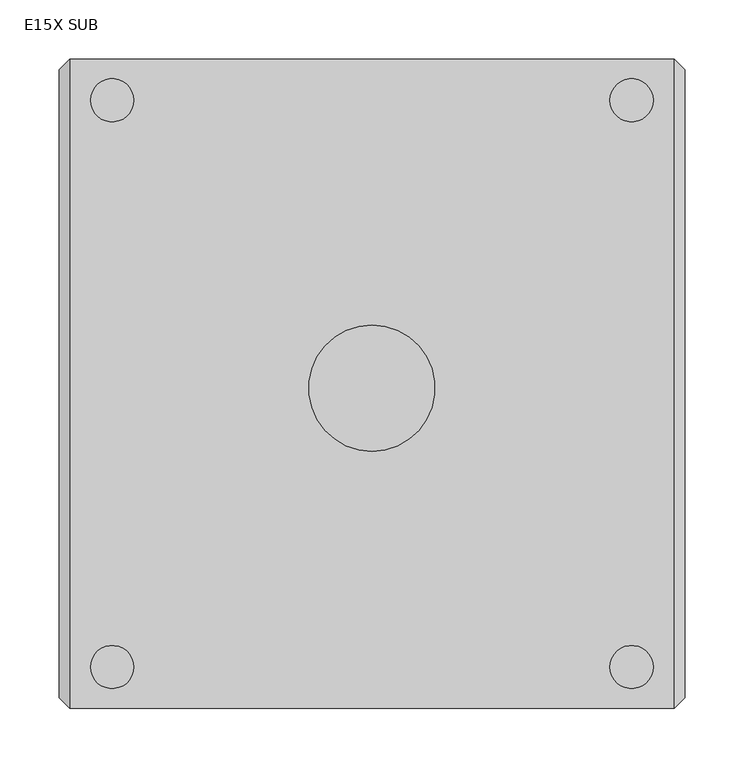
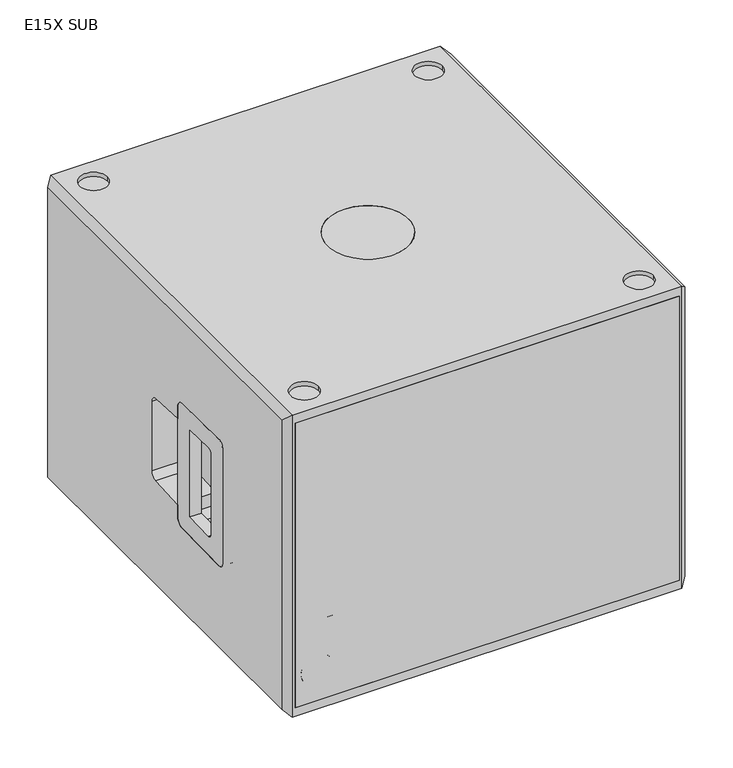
"""IFC4 building model written with IfcOpenShell, lengths in millimetres: proxy geometry, d&b E-Series E15X Subwoofer : E15X SUB."""

from ifc_helpers import new_model, si_unit, point, frame, frame_2d, origin, place, context, project, spatial, polyline, circle_curve, trimmed, segment, composite_curve, outline, extrude, source, transform, mapped, element, save
from ifc_brep_helpers import plane_surface, revolved_surface, advanced_brep


def e15x_sub_ec955287(model_context):
    return source(origin(), model_context, "Body", "SolidModel", [
        extrude(outline(polyline([(252.5, -275.0), (-252.5, -275.0), (-252.5, -260.0), (252.5, -260.0), (252.5, -275.0)])), frame((0.0, 0.0, -197.5), z_axis=(0.0, 0.0, 1.0), x_axis=(1.0, 0.0, 0.0)), (0.0, 0.0, 1.0), 394.9692499),
        extrude(outline(composite_curve([segment(trimmed(circle_curve(frame_2d((-220.0, 240.0)), 18.25), [point((-201.75, 240.0))], [point((-238.25, 240.0))], False, "CARTESIAN"), True, "CONTINUOUS"), segment(trimmed(circle_curve(frame_2d((-220.0, 240.0)), 18.25), [point((-238.25, 240.0))], [point((-201.75, 240.0))], False, "CARTESIAN"), True, "CONTINUOUS")], self_intersect=False)), frame((0.0, 0.0, -216.0), z_axis=(0.0, 0.0, 1.0), x_axis=(1.0, 0.0, 0.0)), (0.0, 0.0, 1.0), 6.0),
        extrude(outline(composite_curve([segment(trimmed(circle_curve(frame_2d((220.0, 240.0)), 18.25), [point((238.25, 240.0))], [point((201.75, 240.0))], False, "CARTESIAN"), True, "CONTINUOUS"), segment(trimmed(circle_curve(frame_2d((220.0, 240.0)), 18.25), [point((201.75, 240.0))], [point((238.25, 240.0))], False, "CARTESIAN"), True, "CONTINUOUS")], self_intersect=False)), frame((0.0, 0.0, -216.0), z_axis=(0.0, 0.0, 1.0), x_axis=(1.0, 0.0, 0.0)), (0.0, 0.0, 1.0), 6.0),
        extrude(outline(composite_curve([segment(trimmed(circle_curve(frame_2d((-220.0, -240.0)), 18.25), [point((-201.75, -240.0))], [point((-238.25, -240.0))], False, "CARTESIAN"), True, "CONTINUOUS"), segment(trimmed(circle_curve(frame_2d((-220.0, -240.0)), 18.25), [point((-238.25, -240.0))], [point((-201.75, -240.0))], False, "CARTESIAN"), True, "CONTINUOUS")], self_intersect=False)), frame((0.0, 0.0, -216.0), z_axis=(0.0, 0.0, 1.0), x_axis=(1.0, 0.0, 0.0)), (0.0, 0.0, 1.0), 6.0),
        extrude(outline(composite_curve([segment(trimmed(circle_curve(frame_2d((220.0, -240.0)), 18.25), [point((238.25, -240.0))], [point((201.75, -240.0))], False, "CARTESIAN"), True, "CONTINUOUS"), segment(trimmed(circle_curve(frame_2d((220.0, -240.0)), 18.25), [point((201.75, -240.0))], [point((238.25, -240.0))], False, "CARTESIAN"), True, "CONTINUOUS")], self_intersect=False)), frame((0.0, 0.0, -216.0), z_axis=(0.0, 0.0, 1.0), x_axis=(1.0, 0.0, 0.0)), (0.0, 0.0, 1.0), 6.0),
        extrude(outline(polyline([(-203.4285714, -275.0), (-244.9285714, -275.0), (-244.9285714, -270.0), (-203.4285714, -270.0), (-203.4285714, -275.0)])), frame((0.0, 0.0, -127.5), z_axis=(0.0, 0.0, 1.0), x_axis=(1.0, 0.0, 0.0)), (0.0, 0.0, 1.0), 41.5),
        extrude(outline(polyline([(-156.0, -275.0), (-197.5, -275.0), (-197.5, -270.0), (-156.0, -270.0), (-156.0, -275.0)])), frame((0.0, 0.0, -127.5), z_axis=(0.0, 0.0, 1.0), x_axis=(1.0, 0.0, 0.0)), (0.0, 0.0, 1.0), 41.5),
        extrude(outline(polyline([(-156.0, -275.0), (-197.5, -275.0), (-197.5, -270.0), (-156.0, -270.0), (-156.0, -275.0)])), frame((0.0, 0.0, -174.9285714), z_axis=(0.0, 0.0, 1.0), x_axis=(1.0, 0.0, 0.0)), (0.0, 0.0, 1.0), 41.5),
        extrude(outline(composite_curve([segment(trimmed(circle_curve(frame_2d((-154.1785714, -224.1785714)), 20.75), [point((-154.1785714, -244.9285714))], [point((-154.1785714, -203.4285714))], False, "CARTESIAN"), True, "CONTINUOUS"), segment(trimmed(circle_curve(frame_2d((-154.1785714, -224.1785714)), 20.75), [point((-154.1785714, -203.4285714))], [point((-154.1785714, -244.9285714))], False, "CARTESIAN"), True, "CONTINUOUS")], self_intersect=False)), frame((0.0, -275.0, 0.0), z_axis=(0.0, 1.0, 0.0), x_axis=(0.0, 0.0, 1.0)), (0.0, 0.0, 1.0), 5.0),
        advanced_brep(
        [(265.0, -266.0, 201.0), (265.0, -266.0, -201.0), (265.0, 266.0, -201.0), (265.0, 266.0, 201.0), (265.0, -123.126422, 87.9753483), (265.0, -38.6374756, 86.3580413), (265.0, -29.9996908, 77.3653331), (265.0, -29.9996908, 59.9650374), (265.0, 20.4659272, 57.0366231), (265.0, 28.8293183, 48.0594598), (265.0, 28.8293183, -48.058974), (265.0, 20.465242, -57.0368847), (265.0, -30.0088186, -59.9657466), (265.0, -30.0088186, -77.3689221), (265.0, -38.7111424, -86.3837349), (265.0, -123.1027014, -88.003144), (265.0, -132.108627, -78.980039), (265.0, -132.108627, 78.9753659), (256.0, -275.0, 210.0), (256.0, -275.0, -210.0), (256.0, 275.0, -210.0), (256.0, 275.0, 210.0), (-265.0, -266.0, 201.0), (-265.0, 266.0, 201.0), (-265.0, 266.0, -201.0), (-265.0, -266.0, -201.0), (-265.0, -38.6374756, 86.3580413), (-265.0, -123.126422, 87.9753483), (-265.0, -132.108627, 78.9753659), (-265.0, -132.108627, -78.980039), (-265.0, -123.1027014, -88.0031441), (-265.0, -38.7111424, -86.3837349), (-265.0, -30.0088186, -77.3689221), (-265.0, -30.0088186, -59.9657466), (-265.0, 20.465242, -57.0368849), (-265.0, 28.8293183, -48.058974), (-265.0, 28.8293183, 48.0594598), (-265.0, 20.4659272, 57.0366233), (-265.0, -29.9996908, 59.9650374), (-265.0, -29.9996908, 77.3653331), (-256.0, -275.0, -210.0), (-256.0, -275.0, 210.0), (-256.0, 275.0, -210.0), (-256.0, 275.0, 210.0), (0.0, 49.7080204, 210.0), (0.0, -57.2080204, 210.0), (-238.25, 240.0, 210.0), (-201.75, 240.0, 210.0), (201.75, 240.0, 210.0), (238.25, 240.0, 210.0), (-238.25, -240.0, 210.0), (-201.75, -240.0, 210.0), (201.75, -240.0, 210.0), (238.25, -240.0, 210.0), (155.0, 275.0, 47.0), (147.0, 275.0, 55.0), (95.0, 275.0, 55.0), (87.0, 275.0, 47.0), (87.0, 275.0, -45.0), (95.0, 275.0, -53.0), (147.0, 275.0, -53.0), (155.0, 275.0, -45.0), (-95.0, 275.0, 55.0), (-147.0, 275.0, 55.0), (-155.0, 275.0, 47.0), (-155.0, 275.0, -45.0), (-147.0, 275.0, -53.0), (-95.0, 275.0, -53.0), (-87.0, 275.0, -45.0), (-87.0, 275.0, 47.0), (-252.5, -275.0, 197.4692499), (252.5, -275.0, 197.4692499), (252.5, -275.0, -197.5), (-252.5, -275.0, -197.5), (215.0, -38.6374756, 86.3580413), (215.0, -123.126422, 87.9753483), (215.0, -132.108627, 78.9753659), (215.0, -132.108627, -78.980039), (215.0, -123.1027014, -88.0031441), (215.0, -38.7111424, -86.3837349), (215.0, -30.0088186, -77.3689221), (215.0, -30.0088186, -59.9657466), (215.0, 20.465242, -57.0368849), (215.0, 28.8293183, -48.058974), (215.0, 28.8293183, 48.0594598), (215.0, 20.4659272, 57.0366233), (215.0, -29.9996908, 59.9650374), (215.0, -29.9996908, 77.3653331), (252.5, -260.0, 197.4692499), (-252.5, -260.0, 197.4692499), (-252.5, -260.0, -197.5), (252.5, -260.0, -197.5), (0.0, -57.2080204, 205.0), (0.0, 49.7080204, 205.0), (-201.75, 240.0, 204.0), (-238.25, 240.0, 204.0), (238.25, 240.0, 204.0), (201.75, 240.0, 204.0), (-201.75, -240.0, 204.0), (-238.25, -240.0, 204.0), (238.25, -240.0, 204.0), (201.75, -240.0, 204.0), (147.0, 263.0, 55.0), (155.0, 263.0, 47.0), (155.0, 263.0, -45.0), (147.0, 263.0, -53.0), (95.0, 263.0, -53.0), (87.0, 263.0, -45.0), (87.0, 263.0, 47.0), (95.0, 263.0, 55.0), (-147.0, 263.0, 55.0), (-95.0, 263.0, 55.0), (-87.0, 263.0, 47.0), (-87.0, 263.0, -45.0), (-95.0, 263.0, -53.0), (-147.0, 263.0, -53.0), (-155.0, 263.0, -45.0), (-155.0, 263.0, 47.0), (-215.0, -38.6374756, 86.3580413), (-215.0, -29.9996908, 77.3653331), (-215.0, -29.9996908, 59.9650374), (-215.0, 20.4659272, 57.0366231), (-215.0, 28.8293183, 48.0594598), (-215.0, 28.8293183, -48.058974), (-215.0, 20.465242, -57.0368847), (-215.0, -30.0088186, -59.9657466), (-215.0, -30.0088186, -77.3689221), (-215.0, -38.7111424, -86.3837349), (-215.0, -123.1027014, -88.003144), (-215.0, -132.108627, -78.980039), (-215.0, -132.108627, 78.9753659), (-215.0, -123.126422, 87.9753483)],
        [
            (0, 1),
            (1, 2),
            (2, 3),
            (3, 0),
            (4, 5, circle_curve(frame((265.0, -119.17, -1913.0207404), z_axis=(-1.0, 0.0, 0.0), x_axis=(0.0, 1.0, 0.0)), 2001.0)),
            (5, 6, circle_curve(frame((265.0, -38.9996908, 77.3653331), z_axis=(-1.0, 0.0, 0.0), x_axis=(0.0, 1.0, 0.0)), 9.0)),
            (6, 7),
            (7, 8, circle_curve(frame((265.0, -119.1701594, -1913.0208287), z_axis=(-1.0, 0.0, 0.0), x_axis=(0.0, 1.0, 0.0)), 1974.9998987)),
            (8, 9, circle_curve(frame((265.0, 19.8296331, 48.0594598), z_axis=(-1.0, 0.0, 0.0), x_axis=(0.0, 1.0, 0.0)), 8.9996852)),
            (9, 10),
            (10, 11, circle_curve(frame((265.0, 19.8288831, -48.058974), z_axis=(-1.0, 0.0, 0.0), x_axis=(0.0, 1.0, 0.0)), 9.0004352)),
            (11, 12, circle_curve(frame((265.0, -119.1734208, 1913.0205662), z_axis=(-1.0, 0.0, 0.0), x_axis=(0.0, 1.0, 0.0)), 1975.0000802)),
            (12, 13),
            (13, 14, circle_curve(frame((265.0, -39.0292418, -77.3689221), z_axis=(-1.0, 0.0, 0.0), x_axis=(0.0, 1.0, 0.0)), 9.0204232)),
            (14, 15, circle_curve(frame((265.0, -119.2892511, 1913.0080485), z_axis=(-1.0, 0.0, 0.0), x_axis=(0.0, 1.0, 0.0)), 2001.0148263)),
            (15, 16, circle_curve(frame((265.0, -123.0855055, -78.980039), z_axis=(-1.0, 0.0, 0.0), x_axis=(0.0, 1.0, 0.0)), 9.0231215)),
            (16, 17),
            (17, 4, circle_curve(frame((265.0, -123.108627, 78.9753659), z_axis=(-1.0, 0.0, 0.0), x_axis=(0.0, 1.0, 0.0)), 9.0)),
            (0, 18),
            (18, 19),
            (19, 1),
            (19, 20),
            (20, 2),
            (20, 21),
            (21, 3),
            (21, 18),
            (22, 23),
            (23, 24),
            (24, 25),
            (25, 22),
            (26, 27, circle_curve(frame((-265.0, -119.17, -1913.0207404), z_axis=(1.0, 0.0, 0.0), x_axis=(0.0, 1.0, 0.0)), 2001.0)),
            (27, 28, circle_curve(frame((-265.0, -123.108627, 78.9753659), z_axis=(1.0, 0.0, 0.0), x_axis=(0.0, 1.0, 0.0)), 9.0)),
            (28, 29),
            (29, 30, circle_curve(frame((-265.0, -123.0855055, -78.980039), z_axis=(1.0, 0.0, 0.0), x_axis=(0.0, 1.0, 0.0)), 9.0231215)),
            (30, 31, circle_curve(frame((-265.0, -119.2892511, 1913.0080485), z_axis=(1.0, 0.0, 0.0), x_axis=(0.0, 1.0, 0.0)), 2001.0148263)),
            (31, 32, circle_curve(frame((-265.0, -39.0292418, -77.3689221), z_axis=(1.0, 0.0, 0.0), x_axis=(0.0, 1.0, 0.0)), 9.0204232)),
            (32, 33),
            (33, 34, circle_curve(frame((-265.0, -119.1734208, 1913.0205662), z_axis=(1.0, 0.0, 0.0), x_axis=(0.0, 1.0, 0.0)), 1975.0000802)),
            (34, 35, circle_curve(frame((-265.0, 19.8288831, -48.058974), z_axis=(1.0, 0.0, 0.0), x_axis=(0.0, 1.0, 0.0)), 9.0004352)),
            (35, 36),
            (36, 37, circle_curve(frame((-265.0, 19.8296331, 48.0594598), z_axis=(1.0, 0.0, 0.0), x_axis=(0.0, 1.0, 0.0)), 8.9996852)),
            (37, 38, circle_curve(frame((-265.0, -119.1701594, -1913.0208287), z_axis=(1.0, 0.0, 0.0), x_axis=(0.0, 1.0, 0.0)), 1974.9998987)),
            (38, 39),
            (39, 26, circle_curve(frame((-265.0, -38.9996908, 77.3653331), z_axis=(1.0, 0.0, 0.0), x_axis=(0.0, 1.0, 0.0)), 9.0)),
            (25, 40),
            (40, 41),
            (41, 22),
            (24, 42),
            (42, 40),
            (23, 43),
            (43, 42),
            (41, 43),
            (21, 43),
            (41, 18),
            (44, 45, circle_curve(frame((0.0, -3.75, 210.0), z_axis=(0.0, 0.0, -1.0), x_axis=(0.0, 1.0, 0.0)), 53.4580204)),
            (45, 44, circle_curve(frame((0.0, -3.75, 210.0), z_axis=(0.0, 0.0, -1.0), x_axis=(0.0, 1.0, 0.0)), 53.4580204)),
            (46, 47, circle_curve(frame((-220.0, 240.0, 210.0), z_axis=(0.0, 0.0, -1.0), x_axis=(-1.0, 0.0, 0.0)), 18.25)),
            (47, 46, circle_curve(frame((-220.0, 240.0, 210.0), z_axis=(0.0, 0.0, -1.0), x_axis=(-1.0, 0.0, 0.0)), 18.25)),
            (48, 49, circle_curve(frame((220.0, 240.0, 210.0), z_axis=(0.0, 0.0, -1.0), x_axis=(-1.0, 0.0, 0.0)), 18.25)),
            (49, 48, circle_curve(frame((220.0, 240.0, 210.0), z_axis=(0.0, 0.0, -1.0), x_axis=(-1.0, 0.0, 0.0)), 18.25)),
            (50, 51, circle_curve(frame((-220.0, -240.0, 210.0), z_axis=(0.0, 0.0, -1.0), x_axis=(-1.0, 0.0, 0.0)), 18.25)),
            (51, 50, circle_curve(frame((-220.0, -240.0, 210.0), z_axis=(0.0, 0.0, -1.0), x_axis=(-1.0, 0.0, 0.0)), 18.25)),
            (52, 53, circle_curve(frame((220.0, -240.0, 210.0), z_axis=(0.0, 0.0, -1.0), x_axis=(-1.0, 0.0, 0.0)), 18.25)),
            (53, 52, circle_curve(frame((220.0, -240.0, 210.0), z_axis=(0.0, 0.0, -1.0), x_axis=(-1.0, 0.0, 0.0)), 18.25)),
            (19, 40),
            (42, 20),
            (54, 55, circle_curve(frame((147.0, 275.0, 47.0), z_axis=(0.0, -1.0, 0.0), x_axis=(-1.0, 0.0, 0.0)), 8.0)),
            (55, 56),
            (56, 57, circle_curve(frame((95.0, 275.0, 47.0), z_axis=(0.0, -1.0, 0.0), x_axis=(-1.0, 0.0, 0.0)), 8.0)),
            (57, 58),
            (58, 59, circle_curve(frame((95.0, 275.0, -45.0), z_axis=(0.0, -1.0, 0.0), x_axis=(-1.0, 0.0, 0.0)), 8.0)),
            (59, 60),
            (60, 61, circle_curve(frame((147.0, 275.0, -45.0), z_axis=(0.0, -1.0, 0.0), x_axis=(-1.0, 0.0, 0.0)), 8.0)),
            (61, 54),
            (62, 63),
            (63, 64, circle_curve(frame((-147.0, 275.0, 47.0), z_axis=(0.0, -1.0, 0.0), x_axis=(-1.0, 0.0, 0.0)), 8.0)),
            (64, 65),
            (65, 66, circle_curve(frame((-147.0, 275.0, -45.0), z_axis=(0.0, -1.0, 0.0), x_axis=(-1.0, 0.0, 0.0)), 8.0)),
            (66, 67),
            (67, 68, circle_curve(frame((-95.0, 275.0, -45.0), z_axis=(0.0, -1.0, 0.0), x_axis=(-1.0, 0.0, 0.0)), 8.0)),
            (68, 69),
            (69, 62, circle_curve(frame((-95.0, 275.0, 47.0), z_axis=(0.0, -1.0, 0.0), x_axis=(-1.0, 0.0, 0.0)), 8.0)),
            (70, 71),
            (71, 72),
            (72, 73),
            (73, 70),
            (74, 75, circle_curve(frame((215.0, -119.17, -1913.0207404), z_axis=(1.0, 0.0, 0.0), x_axis=(0.0, 1.0, 0.0)), 2001.0)),
            (75, 76, circle_curve(frame((215.0, -123.108627, 78.9753659), z_axis=(1.0, 0.0, 0.0), x_axis=(0.0, 1.0, 0.0)), 9.0)),
            (76, 77),
            (77, 78, circle_curve(frame((215.0, -123.0855055, -78.980039), z_axis=(1.0, 0.0, 0.0), x_axis=(0.0, 1.0, 0.0)), 9.0231215)),
            (78, 79, circle_curve(frame((215.0, -119.2892511, 1913.0080485), z_axis=(1.0, 0.0, 0.0), x_axis=(0.0, 1.0, 0.0)), 2001.0148263)),
            (79, 80, circle_curve(frame((215.0, -39.0292418, -77.3689221), z_axis=(1.0, 0.0, 0.0), x_axis=(0.0, 1.0, 0.0)), 9.0204232)),
            (80, 81),
            (81, 82, circle_curve(frame((215.0, -119.1734208, 1913.0205662), z_axis=(1.0, 0.0, 0.0), x_axis=(0.0, 1.0, 0.0)), 1975.0000802)),
            (82, 83, circle_curve(frame((215.0, 19.8288831, -48.058974), z_axis=(1.0, 0.0, 0.0), x_axis=(0.0, 1.0, 0.0)), 9.0004352)),
            (83, 84),
            (84, 85, circle_curve(frame((215.0, 19.8296331, 48.0594598), z_axis=(1.0, 0.0, 0.0), x_axis=(0.0, 1.0, 0.0)), 8.9996852)),
            (85, 86, circle_curve(frame((215.0, -119.1701594, -1913.0208287), z_axis=(1.0, 0.0, 0.0), x_axis=(0.0, 1.0, 0.0)), 1974.9998987)),
            (86, 87),
            (87, 74, circle_curve(frame((215.0, -38.9996908, 77.3653331), z_axis=(1.0, 0.0, 0.0), x_axis=(0.0, 1.0, 0.0)), 9.0)),
            (74, 5),
            (4, 75),
            (17, 76),
            (16, 77),
            (15, 78),
            (14, 79),
            (13, 80),
            (12, 81),
            (11, 82),
            (10, 83),
            (9, 84),
            (8, 85),
            (7, 86),
            (6, 87),
            (88, 89),
            (89, 90),
            (90, 91),
            (91, 88),
            (88, 71),
            (70, 89),
            (73, 90),
            (72, 91),
            (92, 93, circle_curve(frame((0.0, -3.75, 205.0), z_axis=(0.0, 0.0, 1.0), x_axis=(0.0, 1.0, 0.0)), 53.4580204)),
            (93, 92, circle_curve(frame((0.0, -3.75, 205.0), z_axis=(0.0, 0.0, 1.0), x_axis=(0.0, 1.0, 0.0)), 53.4580204)),
            (92, 45),
            (44, 93),
            (94, 95, circle_curve(frame((-220.0, 240.0, 204.0), z_axis=(0.0, 0.0, 1.0), x_axis=(-1.0, 0.0, 0.0)), 18.25)),
            (95, 94, circle_curve(frame((-220.0, 240.0, 204.0), z_axis=(0.0, 0.0, 1.0), x_axis=(-1.0, 0.0, 0.0)), 18.25)),
            (96, 97, circle_curve(frame((220.0, 240.0, 204.0), z_axis=(0.0, 0.0, 1.0), x_axis=(-1.0, 0.0, 0.0)), 18.25)),
            (97, 96, circle_curve(frame((220.0, 240.0, 204.0), z_axis=(0.0, 0.0, 1.0), x_axis=(-1.0, 0.0, 0.0)), 18.25)),
            (98, 99, circle_curve(frame((-220.0, -240.0, 204.0), z_axis=(0.0, 0.0, 1.0), x_axis=(-1.0, 0.0, 0.0)), 18.25)),
            (99, 98, circle_curve(frame((-220.0, -240.0, 204.0), z_axis=(0.0, 0.0, 1.0), x_axis=(-1.0, 0.0, 0.0)), 18.25)),
            (100, 101, circle_curve(frame((220.0, -240.0, 204.0), z_axis=(0.0, 0.0, 1.0), x_axis=(-1.0, 0.0, 0.0)), 18.25)),
            (101, 100, circle_curve(frame((220.0, -240.0, 204.0), z_axis=(0.0, 0.0, 1.0), x_axis=(-1.0, 0.0, 0.0)), 18.25)),
            (94, 47),
            (46, 95),
            (96, 49),
            (48, 97),
            (98, 51),
            (50, 99),
            (100, 53),
            (52, 101),
            (102, 103, circle_curve(frame((147.0, 263.0, 47.0), z_axis=(0.0, 1.0, 0.0), x_axis=(-1.0, 0.0, 0.0)), 8.0)),
            (103, 104),
            (104, 105, circle_curve(frame((147.0, 263.0, -45.0), z_axis=(0.0, 1.0, 0.0), x_axis=(-1.0, 0.0, 0.0)), 8.0)),
            (105, 106),
            (106, 107, circle_curve(frame((95.0, 263.0, -45.0), z_axis=(0.0, 1.0, 0.0), x_axis=(-1.0, 0.0, 0.0)), 8.0)),
            (107, 108),
            (108, 109, circle_curve(frame((95.0, 263.0, 47.0), z_axis=(0.0, 1.0, 0.0), x_axis=(-1.0, 0.0, 0.0)), 8.0)),
            (109, 102),
            (110, 111),
            (111, 112, circle_curve(frame((-95.0, 263.0, 47.0), z_axis=(0.0, 1.0, 0.0), x_axis=(-1.0, 0.0, 0.0)), 8.0)),
            (112, 113),
            (113, 114, circle_curve(frame((-95.0, 263.0, -45.0), z_axis=(0.0, 1.0, 0.0), x_axis=(-1.0, 0.0, 0.0)), 8.0)),
            (114, 115),
            (115, 116, circle_curve(frame((-147.0, 263.0, -45.0), z_axis=(0.0, 1.0, 0.0), x_axis=(-1.0, 0.0, 0.0)), 8.0)),
            (116, 117),
            (117, 110, circle_curve(frame((-147.0, 263.0, 47.0), z_axis=(0.0, 1.0, 0.0), x_axis=(-1.0, 0.0, 0.0)), 8.0)),
            (102, 55),
            (54, 103),
            (61, 104),
            (60, 105),
            (59, 106),
            (58, 107),
            (57, 108),
            (56, 109),
            (110, 63),
            (62, 111),
            (69, 112),
            (68, 113),
            (67, 114),
            (66, 115),
            (65, 116),
            (64, 117),
            (118, 119, circle_curve(frame((-215.0, -38.9996908, 77.3653331), z_axis=(-1.0, 0.0, 0.0), x_axis=(0.0, 1.0, 0.0)), 9.0)),
            (119, 120),
            (120, 121, circle_curve(frame((-215.0, -119.1701594, -1913.0208287), z_axis=(-1.0, 0.0, 0.0), x_axis=(0.0, 1.0, 0.0)), 1974.9998987)),
            (121, 122, circle_curve(frame((-215.0, 19.8296331, 48.0594598), z_axis=(-1.0, 0.0, 0.0), x_axis=(0.0, 1.0, 0.0)), 8.9996852)),
            (122, 123),
            (123, 124, circle_curve(frame((-215.0, 19.8288831, -48.058974), z_axis=(-1.0, 0.0, 0.0), x_axis=(0.0, 1.0, 0.0)), 9.0004352)),
            (124, 125, circle_curve(frame((-215.0, -119.1734208, 1913.0205662), z_axis=(-1.0, 0.0, 0.0), x_axis=(0.0, 1.0, 0.0)), 1975.0000802)),
            (125, 126),
            (126, 127, circle_curve(frame((-215.0, -39.0292418, -77.3689221), z_axis=(-1.0, 0.0, 0.0), x_axis=(0.0, 1.0, 0.0)), 9.0204232)),
            (127, 128, circle_curve(frame((-215.0, -119.2892511, 1913.0080485), z_axis=(-1.0, 0.0, 0.0), x_axis=(0.0, 1.0, 0.0)), 2001.0148263)),
            (128, 129, circle_curve(frame((-215.0, -123.0855055, -78.980039), z_axis=(-1.0, 0.0, 0.0), x_axis=(0.0, 1.0, 0.0)), 9.0231215)),
            (129, 130),
            (130, 131, circle_curve(frame((-215.0, -123.108627, 78.9753659), z_axis=(-1.0, 0.0, 0.0), x_axis=(0.0, 1.0, 0.0)), 9.0)),
            (131, 118, circle_curve(frame((-215.0, -119.17, -1913.0207404), z_axis=(-1.0, 0.0, 0.0), x_axis=(0.0, 1.0, 0.0)), 2001.0)),
            (131, 27),
            (26, 118),
            (130, 28),
            (129, 29),
            (128, 30),
            (127, 31),
            (126, 32),
            (125, 33),
            (124, 34),
            (123, 35),
            (122, 36),
            (121, 37),
            (120, 38),
            (119, 39),
        ],
        [
            plane_surface(frame((265.0, 0.0, 0.0), z_axis=(1.0, 0.0, 0.0), x_axis=(0.0, -1.0, 0.0))),
            plane_surface(frame((265.0, -266.0, 0.0), z_axis=(0.7071067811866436, -0.7071067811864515, 0.0), x_axis=(0.0, 0.0, 1.0))),
            plane_surface(frame((265.0, 0.0, -201.0), z_axis=(0.707106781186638, 0.0, -0.7071067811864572), x_axis=(0.0, -1.0, 0.0))),
            plane_surface(frame((265.0, 266.0, 0.0), z_axis=(0.7071067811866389, 0.7071067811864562, 0.0), x_axis=(0.0, 0.0, -1.0))),
            plane_surface(frame((265.0, 0.0, 201.0), z_axis=(0.7071067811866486, 0.0, 0.7071067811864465), x_axis=(0.0, 1.0, 0.0))),
            plane_surface(frame((-265.0, 0.0, 0.0), z_axis=(-1.0, 0.0, 0.0), x_axis=(0.0, 0.0, 1.0))),
            plane_surface(frame((-265.0, -266.0, 0.0), z_axis=(-0.707106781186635, -0.7071067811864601, 0.0), x_axis=(0.0, 0.0, -1.0))),
            plane_surface(frame((-265.0, 0.0, -201.0), z_axis=(-0.707106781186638, 0.0, -0.7071067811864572), x_axis=(0.0, 1.0, 0.0))),
            plane_surface(frame((-265.0, 266.0, 0.0), z_axis=(-0.7071067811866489, 0.7071067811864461, 0.0), x_axis=(0.0, 0.0, 1.0))),
            plane_surface(frame((-265.0, 0.0, 201.0), z_axis=(-0.7071067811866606, 0.0, 0.7071067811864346), x_axis=(0.0, -1.0, 0.0))),
            plane_surface(frame((-256.0, 275.0, 210.0), z_axis=(0.0, 0.0, 1.0), x_axis=(-1.0, 0.0, 0.0))),
            plane_surface(frame((-256.0, 275.0, -210.0), z_axis=(0.0, 0.0, -1.0), x_axis=(1.0, 0.0, 0.0))),
            plane_surface(frame((256.0, 275.0, 210.0), z_axis=(0.0, 1.0, 0.0), x_axis=(0.0, 0.0, -1.0))),
            plane_surface(frame((-256.0, -275.0, 210.0), z_axis=(0.0, -1.0, 0.0), x_axis=(0.0, 0.0, -1.0))),
            plane_surface(frame((215.0, -29.9996908, 77.3653331), z_axis=(1.0, 0.0, 0.0), x_axis=(0.0, 0.0, -1.0))),
            revolved_surface(polyline([(215.0, 1881.83, -1913.0207404), (265.0, 1881.83, -1913.0207404)]), (265.0, -119.17, -1913.0207404), (-1.0, 0.0, 0.0)),
            revolved_surface(polyline([(215.0, -114.108627, 78.9753659), (265.0, -114.108627, 78.9753659)]), (265.0, -123.108627, 78.9753659), (-1.0, 0.0, 0.0)),
            plane_surface(frame((215.0, -132.108627, -78.980039), z_axis=(0.0, 1.0, 0.0), x_axis=(1.0, 0.0, 0.0))),
            revolved_surface(polyline([(215.0, -114.062384, -78.980039), (265.0, -114.062384, -78.980039)]), (265.0, -123.0855055, -78.980039), (-1.0, 0.0, 0.0)),
            revolved_surface(polyline([(215.0, 1881.7255752, 1913.0080485), (265.0, 1881.7255752, 1913.0080485)]), (265.0, -119.2892511, 1913.0080485), (-1.0, 0.0, 0.0)),
            revolved_surface(polyline([(215.0, -30.0088186, -77.3689221), (265.0, -30.0088186, -77.3689221)]), (265.0, -39.0292418, -77.3689221), (-1.0, 0.0, 0.0)),
            plane_surface(frame((215.0, -30.0088186, -59.9657466), z_axis=(0.0, -1.0, 0.0), x_axis=(1.0, 0.0, 0.0))),
            revolved_surface(polyline([(215.0, 1855.8266594, 1913.0205662), (265.0, 1855.8266594, 1913.0205662)]), (265.0, -119.1734208, 1913.0205662), (-1.0, 0.0, 0.0)),
            revolved_surface(polyline([(215.0, 28.829318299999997, -48.058974), (265.0, 28.829318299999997, -48.058974)]), (265.0, 19.8288831, -48.058974), (-1.0, 0.0, 0.0)),
            plane_surface(frame((215.0, 28.8293183, 48.0594598), z_axis=(0.0, -1.0, 0.0), x_axis=(1.0, 0.0, 0.0))),
            revolved_surface(polyline([(215.0, 28.829318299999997, 48.0594598), (265.0, 28.829318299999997, 48.0594598)]), (265.0, 19.8296331, 48.0594598), (-1.0, 0.0, 0.0)),
            revolved_surface(polyline([(215.0, 1855.8297392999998, -1913.0208287), (265.0, 1855.8297392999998, -1913.0208287)]), (265.0, -119.1701594, -1913.0208287), (-1.0, 0.0, 0.0)),
            plane_surface(frame((215.0, -29.9996908, 77.3653331), z_axis=(0.0, -1.0, 0.0), x_axis=(1.0, 0.0, 0.0))),
            revolved_surface(polyline([(215.0, -29.999690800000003, 77.3653331), (265.0, -29.999690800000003, 77.3653331)]), (265.0, -38.9996908, 77.3653331), (-1.0, 0.0, 0.0)),
            plane_surface(frame((-252.5, -260.0, 197.4692499), z_axis=(0.0, -1.0, 0.0), x_axis=(1.0, 0.0, 0.0))),
            plane_surface(frame((252.5, -275.0, 197.4692499), z_axis=(0.0, 0.0, -1.0), x_axis=(0.0, 1.0, 0.0))),
            plane_surface(frame((-252.5, -275.0, 197.4692499), z_axis=(1.0, 0.0, 0.0), x_axis=(0.0, 1.0, 0.0))),
            plane_surface(frame((-252.5, -275.0, -197.5), z_axis=(0.0, 0.0, 1.0), x_axis=(0.0, 1.0, 0.0))),
            plane_surface(frame((252.5, -275.0, -197.5), z_axis=(-1.0, 0.0, 0.0), x_axis=(0.0, 1.0, 0.0))),
            plane_surface(frame((0.0, 49.7080204, 205.0), z_axis=(0.0, 0.0, 1.0), x_axis=(1.0, 0.0, 0.0))),
            revolved_surface(polyline([(0.0, 49.7080204, 210.0), (0.0, 49.7080204, 205.0)]), (0.0, -3.75, 205.0), (0.0, 0.0, 1.0)),
            plane_surface(frame((-238.25, 240.0, 204.0), z_axis=(0.0, 0.0, 1.0), x_axis=(0.0, 1.0, 0.0))),
            revolved_surface(polyline([(-238.25, 240.0, 210.0), (-238.25, 240.0, 204.0)]), (-220.0, 240.0, 204.0), (0.0, 0.0, 1.0)),
            revolved_surface(polyline([(201.75, 240.0, 210.0), (201.75, 240.0, 204.0)]), (220.0, 240.0, 705.0), (0.0, 0.0, 1.0)),
            revolved_surface(polyline([(-238.25, -240.0, 210.0), (-238.25, -240.0, 204.0)]), (-220.0, -240.0, 705.0), (0.0, 0.0, 1.0)),
            revolved_surface(polyline([(201.75, -240.0, 210.0), (201.75, -240.0, 204.0)]), (220.0, -240.0, 705.0), (0.0, 0.0, 1.0)),
            plane_surface(frame((139.0, 263.0, 47.0), z_axis=(0.0, 1.0, 0.0), x_axis=(0.0, 0.0, -1.0))),
            revolved_surface(polyline([(139.0, 275.0, 47.0), (139.0, 263.0, 47.0)]), (147.0, 263.0, 47.0), (0.0, 1.0, 0.0)),
            plane_surface(frame((155.0, 275.0, 47.0), z_axis=(-1.0, 0.0, 0.0), x_axis=(0.0, -1.0, 0.0))),
            revolved_surface(polyline([(139.0, 275.0, -45.0), (139.0, 263.0, -45.0)]), (147.0, 263.0, -45.0), (0.0, 1.0, 0.0)),
            plane_surface(frame((147.0, 275.0, -53.0), z_axis=(0.0, 0.0, 1.0), x_axis=(0.0, -1.0, 0.0))),
            revolved_surface(polyline([(87.0, 275.0, -45.0), (87.0, 263.0, -45.0)]), (95.0, 263.0, -45.0), (0.0, 1.0, 0.0)),
            plane_surface(frame((87.0, 275.0, -45.0), z_axis=(1.0, 0.0, 0.0), x_axis=(0.0, -1.0, 0.0))),
            revolved_surface(polyline([(87.0, 275.0, 47.0), (87.0, 263.0, 47.0)]), (95.0, 263.0, 47.0), (0.0, 1.0, 0.0)),
            plane_surface(frame((95.0, 275.0, 55.0), z_axis=(0.0, 0.0, -1.0), x_axis=(0.0, -1.0, 0.0))),
            plane_surface(frame((-147.0, 275.0, 55.0), z_axis=(0.0, 0.0, -1.0), x_axis=(0.0, -1.0, 0.0))),
            revolved_surface(polyline([(-103.0, 275.0, 47.0), (-103.0, 263.0, 47.0)]), (-95.0, 275.0, 47.0), (0.0, 1.0, 0.0)),
            plane_surface(frame((-87.0, 275.0, 47.0), z_axis=(-1.0, 0.0, 0.0), x_axis=(0.0, -1.0, 0.0))),
            revolved_surface(polyline([(-103.0, 275.0, -45.0), (-103.0, 263.0, -45.0)]), (-95.0, 275.0, -45.0), (0.0, 1.0, 0.0)),
            plane_surface(frame((-95.0, 275.0, -53.0), z_axis=(0.0, 0.0, 1.0), x_axis=(0.0, -1.0, 0.0))),
            revolved_surface(polyline([(-155.0, 275.0, -45.0), (-155.0, 263.0, -45.0)]), (-147.0, 275.0, -45.0), (0.0, 1.0, 0.0)),
            plane_surface(frame((-155.0, 275.0, -45.0), z_axis=(1.0, 0.0, 0.0), x_axis=(0.0, -1.0, 0.0))),
            revolved_surface(polyline([(-155.0, 275.0, 47.0), (-155.0, 263.0, 47.0)]), (-147.0, 275.0, 47.0), (0.0, 1.0, 0.0)),
            plane_surface(frame((-215.0, 1881.83, -1913.0207404), z_axis=(-1.0, 0.0, 0.0), x_axis=(0.0, 0.0, 1.0))),
            revolved_surface(polyline([(-215.0, 1881.83, -1913.0207404), (-265.0, 1881.83, -1913.0207404)]), (-265.0, -119.17, -1913.0207404), (1.0, 0.0, 0.0)),
            revolved_surface(polyline([(-215.0, -114.108627, 78.9753659), (-265.0, -114.108627, 78.9753659)]), (-265.0, -123.108627, 78.9753659), (1.0, 0.0, 0.0)),
            plane_surface(frame((-215.0, -132.108627, 78.9753659), z_axis=(0.0, 1.0, 0.0), x_axis=(-1.0, 0.0, 0.0))),
            revolved_surface(polyline([(-215.0, -114.062384, -78.980039), (-265.0, -114.062384, -78.980039)]), (-265.0, -123.0855055, -78.980039), (1.0, 0.0, 0.0)),
            revolved_surface(polyline([(-215.0, 1881.7255752, 1913.0080485), (-265.0, 1881.7255752, 1913.0080485)]), (-265.0, -119.2892511, 1913.0080485), (1.0, 0.0, 0.0)),
            revolved_surface(polyline([(-215.0, -30.0088186, -77.3689221), (-265.0, -30.0088186, -77.3689221)]), (-265.0, -39.0292418, -77.3689221), (1.0, 0.0, 0.0)),
            plane_surface(frame((-215.0, -30.0088186, -77.3689221), z_axis=(0.0, -1.0, 0.0), x_axis=(-1.0, 0.0, 0.0))),
            revolved_surface(polyline([(-215.0, 1855.8266594, 1913.0205662), (-265.0, 1855.8266594, 1913.0205662)]), (-265.0, -119.1734208, 1913.0205662), (1.0, 0.0, 0.0)),
            revolved_surface(polyline([(-215.0, 28.829318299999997, -48.058974), (-265.0, 28.829318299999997, -48.058974)]), (-265.0, 19.8288831, -48.058974), (1.0, 0.0, 0.0)),
            plane_surface(frame((-215.0, 28.8293183, -48.058974), z_axis=(0.0, -1.0, 0.0), x_axis=(-1.0, 0.0, 0.0))),
            revolved_surface(polyline([(-215.0, 28.829318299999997, 48.0594598), (-265.0, 28.829318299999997, 48.0594598)]), (-265.0, 19.8296331, 48.0594598), (1.0, 0.0, 0.0)),
            revolved_surface(polyline([(-215.0, 1855.8297392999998, -1913.0208287), (-265.0, 1855.8297392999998, -1913.0208287)]), (-265.0, -119.1701594, -1913.0208287), (1.0, 0.0, 0.0)),
            plane_surface(frame((-215.0, -29.9996908, 59.9650374), z_axis=(0.0, -1.0, 0.0), x_axis=(-1.0, 0.0, 0.0))),
            revolved_surface(polyline([(-215.0, -29.999690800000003, 77.3653331), (-265.0, -29.999690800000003, 77.3653331)]), (-265.0, -38.9996908, 77.3653331), (1.0, 0.0, 0.0)),
        ],
        [
            (0, [[1, 2, 3, 4], [5, 6, 7, 8, 9, 10, 11, 12, 13, 14, 15, 16, 17, 18]]),
            (1, [[-1, 19, 20, 21]]),
            (2, [[-2, -21, 22, 23]]),
            (3, [[-3, -23, 24, 25]]),
            (4, [[-4, -25, 26, -19]]),
            (5, [[27, 28, 29, 30], [31, 32, 33, 34, 35, 36, 37, 38, 39, 40, 41, 42, 43, 44]]),
            (6, [[-30, 45, 46, 47]]),
            (7, [[-29, 48, 49, -45]]),
            (8, [[-28, 50, 51, -48]]),
            (9, [[-27, -47, 52, -50]]),
            (10, [[53, -52, 54, -26], [55, 56], [57, 58], [59, 60], [61, 62], [63, 64]]),
            (11, [[65, -49, 66, -22]]),
            (12, [[-53, -24, -66, -51], [67, 68, 69, 70, 71, 72, 73, 74], [75, 76, 77, 78, 79, 80, 81, 82]]),
            (13, [[-54, -46, -65, -20], [83, 84, 85, 86]]),
            (14, [[87, 88, 89, 90, 91, 92, 93, 94, 95, 96, 97, 98, 99, 100]]),
            (15, [[-87, 101, -5, 102]]),
            (16, [[-88, -102, -18, 103]]),
            (17, [[-89, -103, -17, 104]]),
            (18, [[-90, -104, -16, 105]]),
            (19, [[-91, -105, -15, 106]]),
            (20, [[-92, -106, -14, 107]]),
            (21, [[-93, -107, -13, 108]]),
            (22, [[-94, -108, -12, 109]]),
            (23, [[-95, -109, -11, 110]]),
            (24, [[-96, -110, -10, 111]]),
            (25, [[-97, -111, -9, 112]]),
            (26, [[-98, -112, -8, 113]]),
            (27, [[-99, -113, -7, 114]]),
            (28, [[-100, -114, -6, -101]]),
            (29, [[115, 116, 117, 118]]),
            (30, [[-115, 119, -83, 120]]),
            (31, [[-116, -120, -86, 121]]),
            (32, [[-117, -121, -85, 122]]),
            (33, [[-118, -122, -84, -119]]),
            (34, [[123, 124]]),
            (35, [[-123, 125, -55, 126]]),
            (35, [[-124, -126, -56, -125]]),
            (36, [[127, 128]]),
            (36, [[129, 130]]),
            (36, [[131, 132]]),
            (36, [[133, 134]]),
            (37, [[-127, 135, -57, 136]]),
            (37, [[-128, -136, -58, -135]]),
            (38, [[-129, 137, -59, 138]]),
            (38, [[-130, -138, -60, -137]]),
            (39, [[-131, 139, -61, 140]]),
            (39, [[-132, -140, -62, -139]]),
            (40, [[-133, 141, -63, 142]]),
            (40, [[-134, -142, -64, -141]]),
            (41, [[143, 144, 145, 146, 147, 148, 149, 150]]),
            (41, [[151, 152, 153, 154, 155, 156, 157, 158]]),
            (42, [[-143, 159, -67, 160]]),
            (43, [[-144, -160, -74, 161]]),
            (44, [[-145, -161, -73, 162]]),
            (45, [[-146, -162, -72, 163]]),
            (46, [[-147, -163, -71, 164]]),
            (47, [[-148, -164, -70, 165]]),
            (48, [[-149, -165, -69, 166]]),
            (49, [[-150, -166, -68, -159]]),
            (50, [[-151, 167, -75, 168]]),
            (51, [[-152, -168, -82, 169]]),
            (52, [[-153, -169, -81, 170]]),
            (53, [[-154, -170, -80, 171]]),
            (54, [[-155, -171, -79, 172]]),
            (55, [[-156, -172, -78, 173]]),
            (56, [[-157, -173, -77, 174]]),
            (57, [[-158, -174, -76, -167]]),
            (58, [[175, 176, 177, 178, 179, 180, 181, 182, 183, 184, 185, 186, 187, 188]]),
            (59, [[-188, 189, -31, 190]]),
            (60, [[-187, 191, -32, -189]]),
            (61, [[-186, 192, -33, -191]]),
            (62, [[-185, 193, -34, -192]]),
            (63, [[-184, 194, -35, -193]]),
            (64, [[-183, 195, -36, -194]]),
            (65, [[-182, 196, -37, -195]]),
            (66, [[-181, 197, -38, -196]]),
            (67, [[-180, 198, -39, -197]]),
            (68, [[-179, 199, -40, -198]]),
            (69, [[-178, 200, -41, -199]]),
            (70, [[-177, 201, -42, -200]]),
            (71, [[-176, 202, -43, -201]]),
            (72, [[-175, -190, -44, -202]]),
        ],
    ),
        extrude(outline(composite_curve([segment(trimmed(circle_curve(frame_2d((-38.9996908, 77.3653331)), 9.0), [point((-38.6374756, 86.3580413))], [point((-30.0088186, 77.7705685))], False, "CARTESIAN"), True, "CONTINUOUS"), segment(polyline([(-30.0088186, 77.7705685), (-30.0088186, -77.3689221)]), True, "CONTINUOUS"), segment(trimmed(circle_curve(frame_2d((-39.0292418, -77.3689221)), 9.0204232), [point((-30.0088186, -77.3689221))], [point((-38.7111424, -86.3837349))], False, "CARTESIAN"), True, "CONTINUOUS"), segment(trimmed(circle_curve(frame_2d((-119.2892511, 1913.0080485)), 2001.0148263), [point((-38.7111424, -86.3837349))], [point((-123.1027014, -88.003144))], False, "CARTESIAN"), True, "CONTINUOUS"), segment(trimmed(circle_curve(frame_2d((-123.0855055, -78.980039)), 9.0231215), [point((-123.1027014, -88.003144))], [point((-132.108627, -78.980039))], False, "CARTESIAN"), True, "CONTINUOUS"), segment(polyline([(-132.108627, -78.980039), (-132.108627, 78.9753659)]), True, "CONTINUOUS"), segment(trimmed(circle_curve(frame_2d((-123.108627, 78.9753659)), 9.0), [point((-132.108627, 78.9753659))], [point((-123.126422, 87.9753483))], False, "CARTESIAN"), True, "CONTINUOUS"), segment(trimmed(circle_curve(frame_2d((-119.17, -1913.0207404)), 2001.0), [point((-123.126422, 87.9753483))], [point((-38.6374756, 86.3580413))], False, "CARTESIAN"), True, "CONTINUOUS")], self_intersect=False), holes=[composite_curve([segment(trimmed(circle_curve(frame_2d((-99.5927643, 56.3047169)), 5.0), [point((-99.5430613, 61.3044698))], [point((-104.5927643, 56.3047169))], True, "CARTESIAN"), True, "CONTINUOUS"), segment(polyline([(-104.5927643, 56.3047169), (-104.5927643, -56.3047169)]), True, "CONTINUOUS"), segment(trimmed(circle_curve(frame_2d((-99.5927643, -56.3047169)), 5.0), [point((-104.5927643, -56.3047169))], [point((-99.5430613, -61.3044698))], True, "CARTESIAN"), True, "CONTINUOUS"), segment(trimmed(circle_curve(frame_2d((-119.17, 1913.0207404)), 1974.4227643), [point((-99.5430613, -61.3044698))], [point((-56.9996044, -60.4229741))], True, "CARTESIAN"), True, "CONTINUOUS"), segment(polyline([(-56.9996044, -60.4229741), (-56.9996044, 60.4229741)]), True, "CONTINUOUS"), segment(trimmed(circle_curve(frame_2d((-119.17, -1913.0207404)), 1974.4227643), [point((-56.9996044, 60.4229741))], [point((-99.5430613, 61.3044698))], True, "CARTESIAN"), True, "CONTINUOUS")], self_intersect=False)]), frame((250.0, 0.0, 0.0), z_axis=(1.0, 0.0, 0.0), x_axis=(0.0, 1.0, 0.0)), (0.0, 0.0, 1.0), 15.0),
        extrude(outline(composite_curve([segment(trimmed(circle_curve(frame_2d((-38.9996908, 77.3653331)), 9.0), [point((-38.6374756, 86.3580413))], [point((-30.0088186, 77.7705685))], False, "CARTESIAN"), True, "CONTINUOUS"), segment(polyline([(-30.0088186, 77.7705685), (-30.0088186, -77.3689221)]), True, "CONTINUOUS"), segment(trimmed(circle_curve(frame_2d((-39.0292418, -77.3689221)), 9.0204232), [point((-30.0088186, -77.3689221))], [point((-38.7111424, -86.3837349))], False, "CARTESIAN"), True, "CONTINUOUS"), segment(trimmed(circle_curve(frame_2d((-119.2892511, 1913.0080485)), 2001.0148263), [point((-38.7111424, -86.3837349))], [point((-123.1027014, -88.003144))], False, "CARTESIAN"), True, "CONTINUOUS"), segment(trimmed(circle_curve(frame_2d((-123.0855055, -78.980039)), 9.0231215), [point((-123.1027014, -88.003144))], [point((-132.108627, -78.980039))], False, "CARTESIAN"), True, "CONTINUOUS"), segment(polyline([(-132.108627, -78.980039), (-132.108627, 78.9753659)]), True, "CONTINUOUS"), segment(trimmed(circle_curve(frame_2d((-123.108627, 78.9753659)), 9.0), [point((-132.108627, 78.9753659))], [point((-123.126422, 87.9753483))], False, "CARTESIAN"), True, "CONTINUOUS"), segment(trimmed(circle_curve(frame_2d((-119.17, -1913.0207404)), 2001.0), [point((-123.126422, 87.9753483))], [point((-38.6374756, 86.3580413))], False, "CARTESIAN"), True, "CONTINUOUS")], self_intersect=False), holes=[composite_curve([segment(trimmed(circle_curve(frame_2d((-99.5927643, 56.3047169)), 5.0), [point((-99.5430613, 61.3044698))], [point((-104.5927643, 56.3047169))], True, "CARTESIAN"), True, "CONTINUOUS"), segment(polyline([(-104.5927643, 56.3047169), (-104.5927643, -56.3047169)]), True, "CONTINUOUS"), segment(trimmed(circle_curve(frame_2d((-99.5927643, -56.3047169)), 5.0), [point((-104.5927643, -56.3047169))], [point((-99.5430613, -61.3044698))], True, "CARTESIAN"), True, "CONTINUOUS"), segment(trimmed(circle_curve(frame_2d((-119.17, 1913.0207404)), 1974.4227643), [point((-99.5430613, -61.3044698))], [point((-56.9996044, -60.4229741))], True, "CARTESIAN"), True, "CONTINUOUS"), segment(polyline([(-56.9996044, -60.4229741), (-56.9996044, 60.4229741)]), True, "CONTINUOUS"), segment(trimmed(circle_curve(frame_2d((-119.17, -1913.0207404)), 1974.4227643), [point((-56.9996044, 60.4229741))], [point((-99.5430613, 61.3044698))], True, "CARTESIAN"), True, "CONTINUOUS")], self_intersect=False)]), frame((-265.0, 0.0, 0.0), z_axis=(1.0, 0.0, 0.0), x_axis=(0.0, 1.0, 0.0)), (0.0, 0.0, 1.0), 15.0),
        extrude(outline(composite_curve([segment(trimmed(circle_curve(frame_2d((0.0, -3.75)), 53.4580204), [point((0.0, -57.2080204))], [point((0.0, 49.7080204))], False, "CARTESIAN"), True, "CONTINUOUS"), segment(trimmed(circle_curve(frame_2d((0.0, -3.75)), 53.4580204), [point((0.0, 49.7080204))], [point((0.0, -57.2080204))], False, "CARTESIAN"), True, "CONTINUOUS")], self_intersect=False)), frame((0.0, 0.0, 205.0), z_axis=(0.0, 0.0, 1.0), x_axis=(1.0, 0.0, 0.0)), (0.0, 0.0, 1.0), 5.0),
        extrude(outline(composite_curve([segment(trimmed(circle_curve(frame_2d((27.080361, 121.155371)), 18.2853903), [point((27.080361, 139.4407612))], [point((27.080361, 102.8699807))], False, "CARTESIAN"), True, "CONTINUOUS"), segment(trimmed(circle_curve(frame_2d((27.080361, 121.155371)), 18.2853903), [point((27.080361, 102.8699807))], [point((27.080361, 139.4407612))], False, "CARTESIAN"), True, "CONTINUOUS")], self_intersect=False)), frame((0.0, 263.0, 0.0), z_axis=(0.0, 1.0, 0.0), x_axis=(0.0, 0.0, 1.0)), (0.0, 0.0, 1.0), 5.0),
        extrude(outline(composite_curve([segment(trimmed(circle_curve(frame_2d((-25.080361, 121.155371)), 18.2853903), [point((-25.080361, 139.4407612))], [point((-25.080361, 102.8699807))], False, "CARTESIAN"), True, "CONTINUOUS"), segment(trimmed(circle_curve(frame_2d((-25.080361, 121.155371)), 18.2853903), [point((-25.080361, 102.8699807))], [point((-25.080361, 139.4407612))], False, "CARTESIAN"), True, "CONTINUOUS")], self_intersect=False)), frame((0.0, 263.0, 0.0), z_axis=(0.0, 1.0, 0.0), x_axis=(0.0, 0.0, 1.0)), (0.0, 0.0, 1.0), 5.0),
        extrude(outline(composite_curve([segment(polyline([(55.0, -95.0), (55.0, -147.0)]), True, "CONTINUOUS"), segment(trimmed(circle_curve(frame_2d((47.0, -147.0)), 8.0), [point((55.0, -147.0))], [point((47.0, -155.0))], False, "CARTESIAN"), True, "CONTINUOUS"), segment(polyline([(47.0, -155.0), (-45.0, -155.0)]), True, "CONTINUOUS"), segment(trimmed(circle_curve(frame_2d((-45.0, -147.0)), 8.0), [point((-45.0, -155.0))], [point((-53.0, -147.0))], False, "CARTESIAN"), True, "CONTINUOUS"), segment(polyline([(-53.0, -147.0), (-53.0, -95.0)]), True, "CONTINUOUS"), segment(trimmed(circle_curve(frame_2d((-45.0, -95.0)), 8.0), [point((-53.0, -95.0))], [point((-45.0, -87.0))], False, "CARTESIAN"), True, "CONTINUOUS"), segment(polyline([(-45.0, -87.0), (47.0, -87.0)]), True, "CONTINUOUS"), segment(trimmed(circle_curve(frame_2d((47.0, -95.0)), 8.0), [point((47.0, -87.0))], [point((55.0, -95.0))], False, "CARTESIAN"), True, "CONTINUOUS")], self_intersect=False)), frame((0.0, 263.0, 0.0), z_axis=(0.0, 1.0, 0.0), x_axis=(0.0, 0.0, 1.0)), (0.0, 0.0, 1.0), 12.0),
    ])


if __name__ == "__main__":
    model = new_model("IFC4")
    model_context = context("Model", 3, world=origin())
    ifc_project = project(units=[si_unit("LENGTHUNIT", "METRE", prefix="MILLI")], contexts=[model_context])
    site = spatial("IfcSite", under=ifc_project)
    building = spatial("IfcBuilding", under=site)
    placement = place(None, origin())
    e15x_sub_shape = e15x_sub_ec955287(model_context)
    element("IfcBuildingElementProxy", 1, Name="d&b E-Series E15X Subwoofer : E15X SUB", ObjectType="d&b E-Series E15X Subwoofer : E15X SUB", at=placement, inside=building, context=model_context, shape_type="MappedRepresentation", body=[
        mapped(e15x_sub_shape, transform((0.0, 0.0, 0.0), x_axis=(1.0, 0.0, 0.0), y_axis=(0.0, 1.0, 0.0), z_axis=(0.0, 0.0, 1.0))),
    ])
    save(model, "model.ifc")
